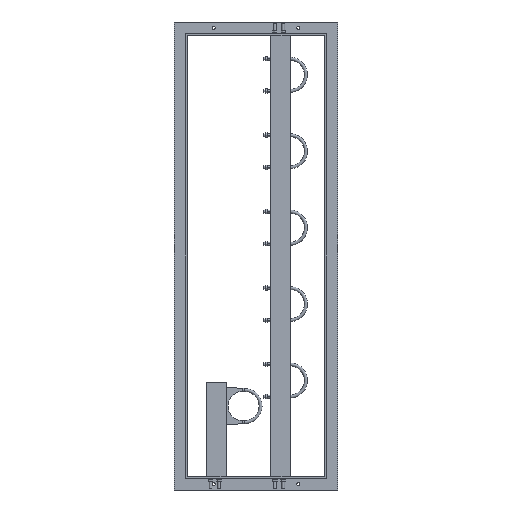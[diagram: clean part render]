
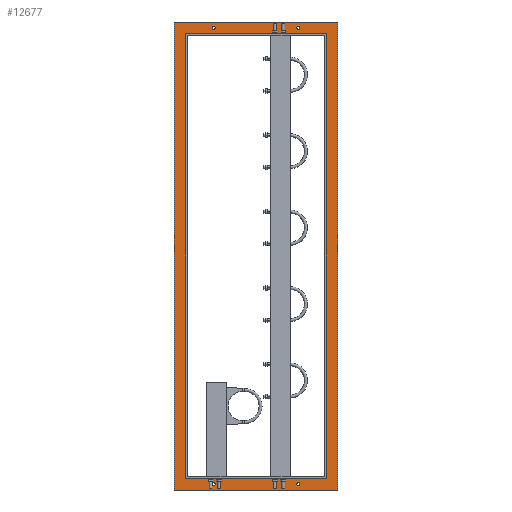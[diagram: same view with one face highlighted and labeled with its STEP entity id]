
A CAD part, front view. The second image highlights one B-rep face of the part: STEP entity #12677.
In plain terms, the highlighted planar face has unit normal (0, -1, 0).
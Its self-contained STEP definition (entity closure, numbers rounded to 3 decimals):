
#2554 = ORIENTED_EDGE ( 'NONE', *, *, #25619, .T. ) ;
#2555 = ORIENTED_EDGE ( 'NONE', *, *, #26916, .T. ) ;
#2558 = ORIENTED_EDGE ( 'NONE', *, *, #14590, .T. ) ;
#2559 = ORIENTED_EDGE ( 'NONE', *, *, #14529, .T. ) ;
#2560 = ORIENTED_EDGE ( 'NONE', *, *, #14943, .F. ) ;
#2561 = ORIENTED_EDGE ( 'NONE', *, *, #15325, .T. ) ;
#2565 = ORIENTED_EDGE ( 'NONE', *, *, #27033, .F. ) ;
#2566 = ORIENTED_EDGE ( 'NONE', *, *, #15200, .F. ) ;
#2567 = ORIENTED_EDGE ( 'NONE', *, *, #26937, .F. ) ;
#2568 = ORIENTED_EDGE ( 'NONE', *, *, #14798, .T. ) ;
#2569 = ORIENTED_EDGE ( 'NONE', *, *, #27106, .T. ) ;
#2570 = ORIENTED_EDGE ( 'NONE', *, *, #25462, .T. ) ;
#2574 = ORIENTED_EDGE ( 'NONE', *, *, #15057, .T. ) ;
#2575 = ORIENTED_EDGE ( 'NONE', *, *, #25650, .T. ) ;
#2576 = ORIENTED_EDGE ( 'NONE', *, *, #25682, .T. ) ;
#2577 = ORIENTED_EDGE ( 'NONE', *, *, #15144, .T. ) ;
#3059 = CARTESIAN_POINT ( 'NONE',  ( 128.575, 3.968, 700.928 ) ) ;
#3088 = CARTESIAN_POINT ( 'NONE',  ( 128.575, 3.968, 691.928 ) ) ;
#3138 = CARTESIAN_POINT ( 'NONE',  ( 213.575, 3.968, -665.572 ) ) ;
#3168 = CARTESIAN_POINT ( 'NONE',  ( 128.575, 3.968, -678.072 ) ) ;
#3225 = CARTESIAN_POINT ( 'NONE',  ( 213.575, 3.968, 679.428 ) ) ;
#3385 = CARTESIAN_POINT ( 'NONE',  ( -126.425, 3.968, -687.072 ) ) ;
#3487 = CARTESIAN_POINT ( 'NONE',  ( -126.425, 3.968, 691.928 ) ) ;
#3603 = CARTESIAN_POINT ( 'NONE',  ( -211.425, 3.968, 679.428 ) ) ;
#3623 = CARTESIAN_POINT ( 'NONE',  ( -126.425, 3.968, 700.928 ) ) ;
#3646 = CARTESIAN_POINT ( 'NONE',  ( -126.425, 3.968, -678.072 ) ) ;
#3895 = CARTESIAN_POINT ( 'NONE',  ( -211.425, 3.968, -665.572 ) ) ;
#5561 = VERTEX_POINT ( 'NONE', #3895 ) ;
#5635 = VERTEX_POINT ( 'NONE', #3487 ) ;
#5734 = VERTEX_POINT ( 'NONE', #3385 ) ;
#5739 = VERTEX_POINT ( 'NONE', #3138 ) ;
#5753 = VERTEX_POINT ( 'NONE', #3088 ) ;
#6024 = VERTEX_POINT ( 'NONE', #3059 ) ;
#6040 = VERTEX_POINT ( 'NONE', #3225 ) ;
#6048 = VERTEX_POINT ( 'NONE', #3168 ) ;
#6068 = VERTEX_POINT ( 'NONE', #3623 ) ;
#6083 = VERTEX_POINT ( 'NONE', #3603 ) ;
#6139 = VERTEX_POINT ( 'NONE', #3646 ) ;
#6418 = VERTEX_POINT ( 'NONE', #29605 ) ;
#7766 = AXIS2_PLACEMENT_3D ( 'NONE', #8690, #8691, #8692 ) ;
#7827 = AXIS2_PLACEMENT_3D ( 'NONE', #9086, #9087, #9088 ) ;
#7840 = AXIS2_PLACEMENT_3D ( 'NONE', #9155, #9156, #9157 ) ;
#7849 = AXIS2_PLACEMENT_3D ( 'NONE', #9208, #9209, #9210 ) ;
#7926 = AXIS2_PLACEMENT_3D ( 'NONE', #28282, #28283, #28284 ) ;
#7989 = AXIS2_PLACEMENT_3D ( 'NONE', #28777, #28778, #28779 ) ;
#8012 = DIRECTION ( 'NONE',  ( 0., 0., 1. ) ) ;
#8019 = CARTESIAN_POINT ( 'NONE',  ( 213.575, 3.968, -665.572 ) ) ;
#8070 = VERTEX_POINT ( 'NONE', #29655 ) ;
#8174 = VERTEX_POINT ( 'NONE', #29759 ) ;
#8181 = VERTEX_POINT ( 'NONE', #29766 ) ;
#8283 = VERTEX_POINT ( 'NONE', #29868 ) ;
#8690 = CARTESIAN_POINT ( 'NONE',  ( -126.425, 3.968, 696.428 ) ) ;
#8691 = DIRECTION ( 'NONE',  ( 0., 1., 0. ) ) ;
#8692 = DIRECTION ( 'NONE',  ( 1., 0., 0. ) ) ;
#9086 = CARTESIAN_POINT ( 'NONE',  ( 128.575, 3.968, 696.428 ) ) ;
#9087 = DIRECTION ( 'NONE',  ( 0., 1., 0. ) ) ;
#9088 = DIRECTION ( 'NONE',  ( 1., 0., 0. ) ) ;
#9155 = CARTESIAN_POINT ( 'NONE',  ( -126.425, 3.968, -682.572 ) ) ;
#9156 = DIRECTION ( 'NONE',  ( 0., 1., 0. ) ) ;
#9157 = DIRECTION ( 'NONE',  ( 1., 0., 0. ) ) ;
#9208 = CARTESIAN_POINT ( 'NONE',  ( 128.575, 3.968, -682.572 ) ) ;
#9209 = DIRECTION ( 'NONE',  ( 0., 1., 0. ) ) ;
#9210 = DIRECTION ( 'NONE',  ( 1., 0., 0. ) ) ;
#9898 = CIRCLE ( 'NONE', #7766, 4.5 ) ;
#10074 = CIRCLE ( 'NONE', #7827, 4.5 ) ;
#10114 = CIRCLE ( 'NONE', #7840, 4.5 ) ;
#10160 = CIRCLE ( 'NONE', #7849, 4.5 ) ;
#10352 = CIRCLE ( 'NONE', #7926, 4.5 ) ;
#10381 = LINE ( 'NONE', #28340, #10383 ) ;
#10383 = VECTOR ( 'NONE', #28336, 1000. ) ;
#10856 = LINE ( 'NONE', #24764, #10861 ) ;
#10861 = VECTOR ( 'NONE', #24755, 1000. ) ;
#10943 = LINE ( 'NONE', #24394, #10947 ) ;
#10947 = VECTOR ( 'NONE', #24325, 1000. ) ;
#11217 = LINE ( 'NONE', #27874, #11221 ) ;
#11221 = VECTOR ( 'NONE', #27861, 1000. ) ;
#12677 = ADVANCED_FACE ( 'NONE', ( #16916, #16920, #16917, #16919, #16918, #16921 ), #20415, .T. ) ;
#13019 = AXIS2_PLACEMENT_3D ( 'NONE', #22462, #22460, #22693 ) ;
#13085 = AXIS2_PLACEMENT_3D ( 'NONE', #22041, #22153, #22040 ) ;
#13620 = EDGE_LOOP ( 'NONE', ( #2569, #2570 ) ) ;
#13633 = EDGE_LOOP ( 'NONE', ( #2560, #2561, #2558, #2559 ) ) ;
#13649 = EDGE_LOOP ( 'NONE', ( #2574, #2575 ) ) ;
#13669 = EDGE_LOOP ( 'NONE', ( #2567, #2568, #2565, #2566 ) ) ;
#13680 = EDGE_LOOP ( 'NONE', ( #2555, #2554 ) ) ;
#13693 = EDGE_LOOP ( 'NONE', ( #2577, #2576 ) ) ;
#14529 = EDGE_CURVE ( 'NONE', #8283, #8181, #10856, .T. ) ;
#14590 = EDGE_CURVE ( 'NONE', #8070, #8283, #10943, .T. ) ;
#14798 = EDGE_CURVE ( 'NONE', #5561, #6083, #11217, .T. ) ;
#14943 = EDGE_CURVE ( 'NONE', #8174, #8181, #18455, .T. ) ;
#15057 = EDGE_CURVE ( 'NONE', #6139, #5734, #18608, .T. ) ;
#15144 = EDGE_CURVE ( 'NONE', #6048, #6418, #18727, .T. ) ;
#15200 = EDGE_CURVE ( 'NONE', #5739, #6040, #18798, .T. ) ;
#15325 = EDGE_CURVE ( 'NONE', #8174, #8070, #18960, .T. ) ;
#16916 = FACE_BOUND ( 'NONE', #13680, .T. ) ;
#16917 = FACE_BOUND ( 'NONE', #13649, .T. ) ;
#16918 = FACE_BOUND ( 'NONE', #13669, .T. ) ;
#16919 = FACE_BOUND ( 'NONE', #13620, .T. ) ;
#16920 = FACE_BOUND ( 'NONE', #13693, .T. ) ;
#16921 = FACE_OUTER_BOUND ( 'NONE', #13633, .T. ) ;
#17804 = CARTESIAN_POINT ( 'NONE',  ( -246.425, 3.968, -700.572 ) ) ;
#17810 = DIRECTION ( 'NONE',  ( 1., 0., 0. ) ) ;
#18455 = LINE ( 'NONE', #21707, #18459 ) ;
#18459 = VECTOR ( 'NONE', #21708, 1000. ) ;
#18608 = CIRCLE ( 'NONE', #13019, 4.5 ) ;
#18727 = CIRCLE ( 'NONE', #13085, 4.5 ) ;
#18798 = LINE ( 'NONE', #8019, #18800 ) ;
#18800 = VECTOR ( 'NONE', #8012, 1000. ) ;
#18960 = LINE ( 'NONE', #17804, #18968 ) ;
#18968 = VECTOR ( 'NONE', #17810, 1000. ) ;
#20284 = DIRECTION ( 'NONE',  ( 0., -1., 0. ) ) ;
#20415 = PLANE ( 'NONE',  #22325 ) ;
#20507 = CARTESIAN_POINT ( 'NONE',  ( -211.425, 3.968, -813.709 ) ) ;
#20550 = DIRECTION ( 'NONE',  ( 1., 0., 0. ) ) ;
#21308 = LINE ( 'NONE', #28572, #21311 ) ;
#21311 = VECTOR ( 'NONE', #28574, 1000. ) ;
#21398 = CIRCLE ( 'NONE', #7989, 4.5 ) ;
#21707 = CARTESIAN_POINT ( 'NONE',  ( -246.425, 3.968, -813.709 ) ) ;
#21708 = DIRECTION ( 'NONE',  ( 0., 0., 1. ) ) ;
#22040 = DIRECTION ( 'NONE',  ( 1., 0., 0. ) ) ;
#22041 = CARTESIAN_POINT ( 'NONE',  ( 128.575, 3.968, -682.572 ) ) ;
#22153 = DIRECTION ( 'NONE',  ( 0., 1., 0. ) ) ;
#22325 = AXIS2_PLACEMENT_3D ( 'NONE', #20507, #20284, #20550 ) ;
#22460 = DIRECTION ( 'NONE',  ( 0., 1., 0. ) ) ;
#22462 = CARTESIAN_POINT ( 'NONE',  ( -126.425, 3.968, -682.572 ) ) ;
#22693 = DIRECTION ( 'NONE',  ( 1., 0., 0. ) ) ;
#24325 = DIRECTION ( 'NONE',  ( 0., 0., 1. ) ) ;
#24394 = CARTESIAN_POINT ( 'NONE',  ( 248.575, 3.968, -700.572 ) ) ;
#24755 = DIRECTION ( 'NONE',  ( -1., 0., 0. ) ) ;
#24764 = CARTESIAN_POINT ( 'NONE',  ( 248.575, 3.968, 714.428 ) ) ;
#25462 = EDGE_CURVE ( 'NONE', #5635, #6068, #9898, .T. ) ;
#25619 = EDGE_CURVE ( 'NONE', #5753, #6024, #10074, .T. ) ;
#25650 = EDGE_CURVE ( 'NONE', #5734, #6139, #10114, .T. ) ;
#25682 = EDGE_CURVE ( 'NONE', #6418, #6048, #10160, .T. ) ;
#26916 = EDGE_CURVE ( 'NONE', #6024, #5753, #10352, .T. ) ;
#26937 = EDGE_CURVE ( 'NONE', #5561, #5739, #10381, .T. ) ;
#27033 = EDGE_CURVE ( 'NONE', #6040, #6083, #21308, .T. ) ;
#27106 = EDGE_CURVE ( 'NONE', #6068, #5635, #21398, .T. ) ;
#27861 = DIRECTION ( 'NONE',  ( 0., 0., 1. ) ) ;
#27874 = CARTESIAN_POINT ( 'NONE',  ( -211.425, 3.968, -813.709 ) ) ;
#28282 = CARTESIAN_POINT ( 'NONE',  ( 128.575, 3.968, 696.428 ) ) ;
#28283 = DIRECTION ( 'NONE',  ( 0., 1., 0. ) ) ;
#28284 = DIRECTION ( 'NONE',  ( 1., 0., 0. ) ) ;
#28336 = DIRECTION ( 'NONE',  ( 1., 0., 0. ) ) ;
#28340 = CARTESIAN_POINT ( 'NONE',  ( -211.425, 3.968, -665.572 ) ) ;
#28572 = CARTESIAN_POINT ( 'NONE',  ( 213.575, 3.968, 679.428 ) ) ;
#28574 = DIRECTION ( 'NONE',  ( -1., 0., 0. ) ) ;
#28777 = CARTESIAN_POINT ( 'NONE',  ( -126.425, 3.968, 696.428 ) ) ;
#28778 = DIRECTION ( 'NONE',  ( 0., 1., 0. ) ) ;
#28779 = DIRECTION ( 'NONE',  ( 1., 0., 0. ) ) ;
#29605 = CARTESIAN_POINT ( 'NONE',  ( 128.575, 3.968, -687.072 ) ) ;
#29655 = CARTESIAN_POINT ( 'NONE',  ( 248.575, 3.968, -700.572 ) ) ;
#29759 = CARTESIAN_POINT ( 'NONE',  ( -246.425, 3.968, -700.572 ) ) ;
#29766 = CARTESIAN_POINT ( 'NONE',  ( -246.425, 3.968, 714.428 ) ) ;
#29868 = CARTESIAN_POINT ( 'NONE',  ( 248.575, 3.968, 714.428 ) ) ;
